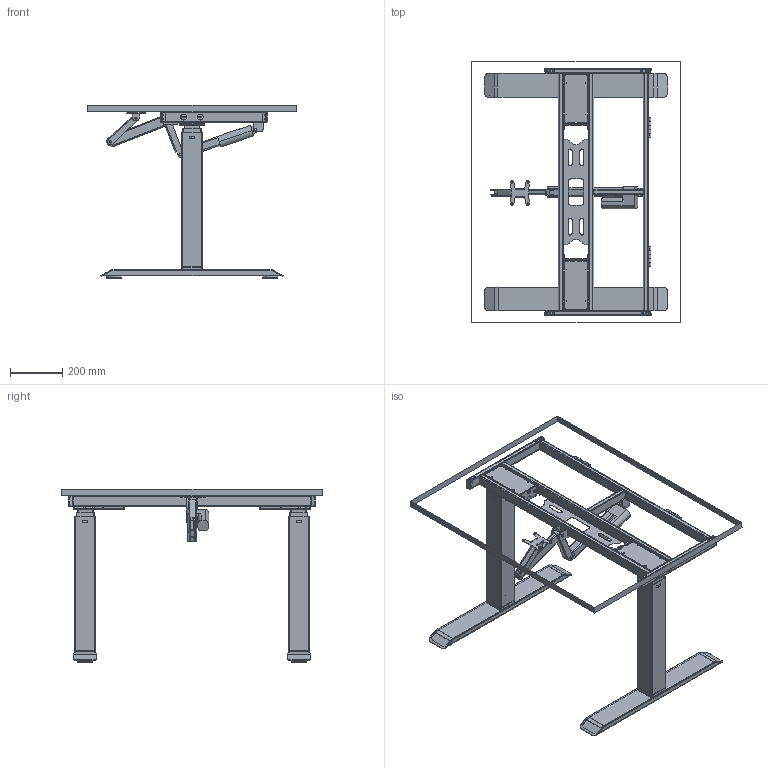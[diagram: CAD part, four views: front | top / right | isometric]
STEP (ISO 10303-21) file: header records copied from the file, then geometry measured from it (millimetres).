
FILE_DESCRIPTION(('CATIA V5 STEP Exchange'),'2;1');
FILE_NAME('F:\胡亚菊\工作\2023年设计申请单\张凯波\T063(任务单号：0455#)\工程图\任务单0455# 生产图及BOM清单\AK2QX-YDZF3-T063.stp','2023-02-28T05:55:44+00:00',('none'),('none'),'CATIA Version 5 Release 21 GA (IN-10)','CATIA V5 STEP AP203','none');
FILE_SCHEMA(('CONFIG_CONTROL_DESIGN'));
Products named in the file (14): AK2QX-YDZF3-T063; Product1; YDZF3-640-1290(ZHY); 1.13.038.X  YDZF3-SG01-555_60-V3; 1.15.036.X  AK-YDZF3-XG01-526_80; 1.12.006.X AK-DJ01B-700X-45X45; 1.12.006.X AK-DJ01B-700X; 【临时】1.96.008.6153X AK-QXZ-HL02P-950_框架式横梁焊件; Copy (1) of Product1; Copy (1) of AK-TG; JI2_ASM_23_ASM_12_ASM_2_ASM; Product2; HEYE-2_6_ASM_3_ASM; HEYE-1_6_ASM_3_ASM
Assembly tree (57 placements, depth 5):
  AK2QX-YDZF3-T063
    Product1  x2
      YDZF3-640-1290(ZHY)
        1.13.038.X  YDZF3-SG01-555_60-V3
          #82
          #2747
          #3488
          #9431
        #10413
        #26928
        1.15.036.X  AK-YDZF3-XG01-526_80
          #29426
          #30316
      1.12.006.X AK-DJ01B-700X-45X45
        1.12.006.X AK-DJ01B-700X
          #31377
          #32208
        #35469  x2
    【临时】1.96.008.6153X AK-QXZ-HL02P-950_框架式横梁焊件
      #39668  x2
      #40895  x2
      #41597
      #43075  x2
      #44656
      #46610
      #47297  x2
      #47839  x2
    #48406
    Copy (1) of Product1
      Copy (1) of AK-TG
        #48609
        #49310
      #50977
      #53635
      JI2_ASM_23_ASM_12_ASM_2_ASM
        #54982
        #56753
    #58037
    #62397
    #66757
    #71117
    Product2  x2
      HEYE-2_6_ASM_3_ASM
        #75493
        #76208
        #76353
      HEYE-1_6_ASM_3_ASM
        #76501
        #76610
        #76719
Bounding box: 800 x 1000 x 665 mm (x, y, z)
Volume: 4399460.2 mm3; surface area: 3799052.1 mm2
Topology: 73 solids, 77 shells, 3744 faces, 10100 edges, 6511 vertices
Faces by surface type: cylinder 1913, plane 1619, cone 84, bspline 68, torus 24, sphere 24, extrusion 12
Entity records: 76656 total; most frequent: CARTESIAN_POINT 26312, ORIENTED_EDGE 11110, DIRECTION 8477, EDGE_CURVE 5565, VERTEX_POINT 3597, VECTOR 3305, LINE 3293, AXIS2_PLACEMENT_3D 3284
